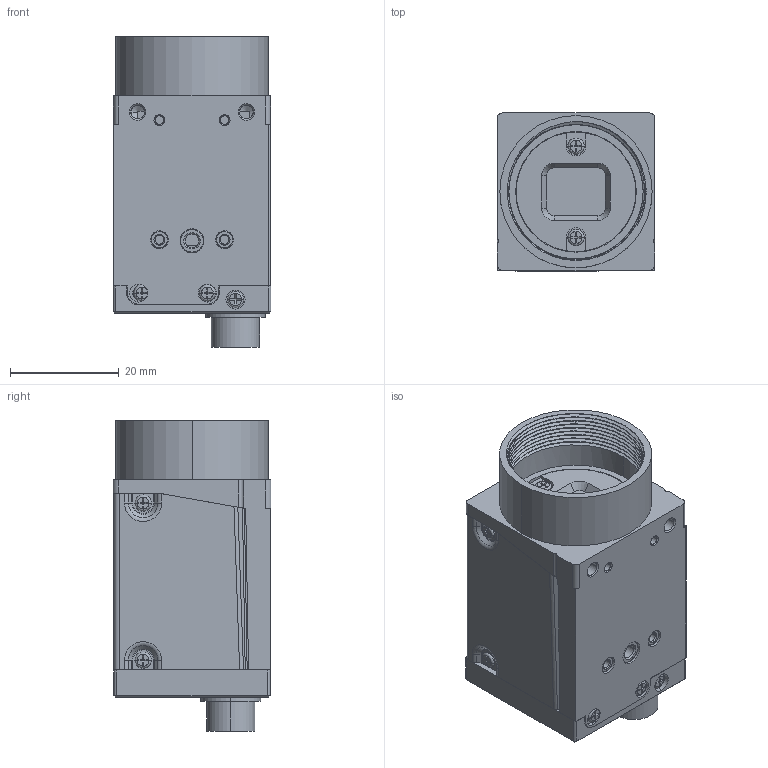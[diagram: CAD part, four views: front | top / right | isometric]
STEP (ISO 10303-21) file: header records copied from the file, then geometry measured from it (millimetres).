
FILE_DESCRIPTION((''),'2;1');
FILE_NAME('MGE-CMOS-00-00-00-00_ASM_ASM','2019-01-11T',('Dongwoo'),(''),'CREO PARAMETRIC BY PTC INC, 2016130','CREO PARAMETRIC BY PTC INC, 2016130','');
FILE_SCHEMA(('CONFIG_CONTROL_DESIGN'));
Length unit declared in the file: inch
Products named in the file (20): MGE-CMOS-01-01-00-00_33; MGE-01-02-00-00_27; MGE-01-03-00-00_25; MGE-CMOS-01-00-00-00_ASM_37_ASM; PI3-LED-3-DIP_3; PI3-LED-DIP_4; TM11R-5M2-88_4; MGE-CMOS-PCB-ASSY_ASM_7_ASM; MGE-04-00-00-00_54; MGE-05-00-00-00_134; MGE-02-00-00-00_57; MVU-00-04-00-00_6; MVU-00-03-00-00_6; HR10A_7R_6P_5; CH-MS-M2XL3-ZNB_5; CH-MS-M2XL5-ZNB_4; MGE-CMOS-SENSOR-BOARD-ASSY_ASM__ASM; MGE-CMOS-MAIN-BOARD-ASSY_ASM_1_ASM; MGE-CMOS-00-00-00-00_ASM_24_ASM; MGE-CMOS-00-00-00-00_ASM_ASM
Assembly tree (34 placements, depth 4):
  MGE-CMOS-00-00-00-00_ASM_ASM
    MGE-CMOS-00-00-00-00_ASM_24_ASM
      MGE-CMOS-01-00-00-00_ASM_37_ASM
        MGE-CMOS-01-01-00-00_33
        MGE-01-02-00-00_27
        MGE-01-03-00-00_25  x2
      MGE-CMOS-PCB-ASSY_ASM_7_ASM
        PI3-LED-3-DIP_3
        PI3-LED-DIP_4
        TM11R-5M2-88_4
      MGE-04-00-00-00_54
      MGE-05-00-00-00_134
      MGE-02-00-00-00_57
      MVU-00-04-00-00_6
      MVU-00-03-00-00_6
      HR10A_7R_6P_5
      CH-MS-M2XL3-ZNB_5  x11
      CH-MS-M2XL5-ZNB_4  x2
      MGE-CMOS-SENSOR-BOARD-ASSY_ASM__ASM
      MGE-CMOS-MAIN-BOARD-ASSY_ASM_1_ASM
        PI3-LED-3-DIP_3
        PI3-LED-DIP_4
        TM11R-5M2-88_4
Bounding box: 29 x 29 x 57.17 mm (x, y, z)
Volume: 35723.3 mm3; surface area: 26706.1 mm2
Topology: 29 solids, 53 shells, 1944 faces, 5185 edges, 3396 vertices
Faces by surface type: plane 1125, cylinder 589, cone 133, torus 46, sphere 29, bspline 22
Entity records: 48554 total; most frequent: CARTESIAN_POINT 13205, ORIENTED_EDGE 7278, DIRECTION 7261, EDGE_CURVE 3685, AXIS2_PLACEMENT_3D 2524, VERTEX_POINT 2440, VECTOR 2213, LINE 2213
